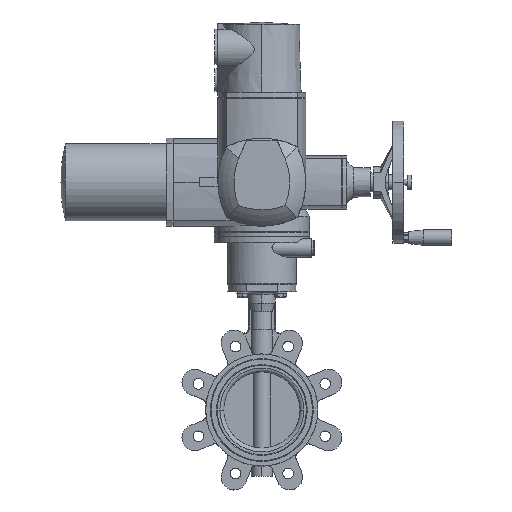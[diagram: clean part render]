
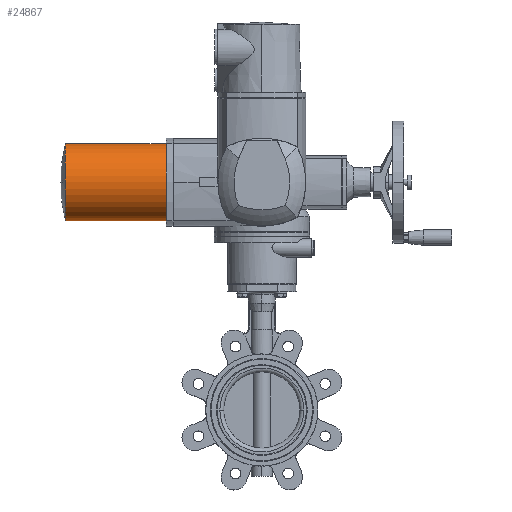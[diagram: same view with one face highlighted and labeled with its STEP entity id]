
A CAD part, top view. The second image highlights one B-rep face of the part: STEP entity #24867.
In plain terms, the highlighted cylindrical face has radius 50.5 mm (diameter 101 mm), a partial arc.
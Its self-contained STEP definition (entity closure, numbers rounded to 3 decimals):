
#1501 = CARTESIAN_POINT ( 'NONE',  ( -97.021, -40., 83. ) ) ;
#1596 = AXIS2_PLACEMENT_3D ( 'NONE', #16087, #23815, #27988 ) ;
#2134 = CARTESIAN_POINT ( 'NONE',  ( -257.519, -40., 133.5 ) ) ;
#2282 = DIRECTION ( 'NONE',  ( 1., 0., 0. ) ) ;
#3476 = CARTESIAN_POINT ( 'NONE',  ( -257.519, -40., 184. ) ) ;
#3496 = CIRCLE ( 'NONE', #17792, 50.5 ) ;
#5186 = VERTEX_POINT ( 'NONE', #3476 ) ;
#6853 = CIRCLE ( 'NONE', #15039, 50.5 ) ;
#8773 = VERTEX_POINT ( 'NONE', #30088 ) ;
#9274 = VERTEX_POINT ( 'NONE', #26038 ) ;
#9499 = EDGE_CURVE ( 'NONE', #19046, #9274, #21163, .T. ) ;
#10034 = ORIENTED_EDGE ( 'NONE', *, *, #22295, .T. ) ;
#10268 = CIRCLE ( 'NONE', #14354, 50.5 ) ;
#10413 = VECTOR ( 'NONE', #23820, 1000. ) ;
#10650 = DIRECTION ( 'NONE',  ( -1., 0., 0. ) ) ;
#12016 = DIRECTION ( 'NONE',  ( 0., 0., 1. ) ) ;
#12399 = CARTESIAN_POINT ( 'NONE',  ( -125.5, -40., 184. ) ) ;
#14354 = AXIS2_PLACEMENT_3D ( 'NONE', #25544, #10650, #30221 ) ;
#14665 = EDGE_CURVE ( 'NONE', #8773, #19046, #6853, .T. ) ;
#14744 = VECTOR ( 'NONE', #27925, 1000. ) ;
#15039 = AXIS2_PLACEMENT_3D ( 'NONE', #30192, #15093, #20232 ) ;
#15093 = DIRECTION ( 'NONE',  ( 1., 0., 0. ) ) ;
#15661 = VERTEX_POINT ( 'NONE', #12399 ) ;
#16087 = CARTESIAN_POINT ( 'NONE',  ( -97.021, -40., 133.5 ) ) ;
#17792 = AXIS2_PLACEMENT_3D ( 'NONE', #2134, #2282, #12016 ) ;
#18195 = CYLINDRICAL_SURFACE ( 'NONE', #1596, 50.5 ) ;
#18819 = FACE_OUTER_BOUND ( 'NONE', #25063, .T. ) ;
#19046 = VERTEX_POINT ( 'NONE', #25721 ) ;
#19597 = ORIENTED_EDGE ( 'NONE', *, *, #14665, .T. ) ;
#20232 = DIRECTION ( 'NONE',  ( 0., 0., 1. ) ) ;
#20973 = EDGE_CURVE ( 'NONE', #9274, #15661, #10268, .T. ) ;
#21163 = LINE ( 'NONE', #1501, #14744 ) ;
#22260 = ORIENTED_EDGE ( 'NONE', *, *, #30485, .F. ) ;
#22295 = EDGE_CURVE ( 'NONE', #5186, #8773, #3496, .T. ) ;
#23039 = ORIENTED_EDGE ( 'NONE', *, *, #9499, .T. ) ;
#23815 = DIRECTION ( 'NONE',  ( 1., 0., 0. ) ) ;
#23820 = DIRECTION ( 'NONE',  ( 1., 0., 0. ) ) ;
#23847 = ORIENTED_EDGE ( 'NONE', *, *, #20973, .T. ) ;
#24867 = ADVANCED_FACE ( 'NONE', ( #18819 ), #18195, .T. ) ;
#25063 = EDGE_LOOP ( 'NONE', ( #10034, #19597, #23039, #23847, #22260 ) ) ;
#25544 = CARTESIAN_POINT ( 'NONE',  ( -125.5, -40., 133.5 ) ) ;
#25721 = CARTESIAN_POINT ( 'NONE',  ( -257.519, -40., 83. ) ) ;
#26038 = CARTESIAN_POINT ( 'NONE',  ( -125.5, -40., 83. ) ) ;
#26369 = LINE ( 'NONE', #26520, #10413 ) ;
#26520 = CARTESIAN_POINT ( 'NONE',  ( -97.021, -40., 184. ) ) ;
#27925 = DIRECTION ( 'NONE',  ( 1., 0., 0. ) ) ;
#27988 = DIRECTION ( 'NONE',  ( 0., 0., 1. ) ) ;
#30088 = CARTESIAN_POINT ( 'NONE',  ( -257.519, -90.5, 133.5 ) ) ;
#30192 = CARTESIAN_POINT ( 'NONE',  ( -257.519, -40., 133.5 ) ) ;
#30221 = DIRECTION ( 'NONE',  ( 0., 0., -1. ) ) ;
#30485 = EDGE_CURVE ( 'NONE', #5186, #15661, #26369, .T. ) ;
